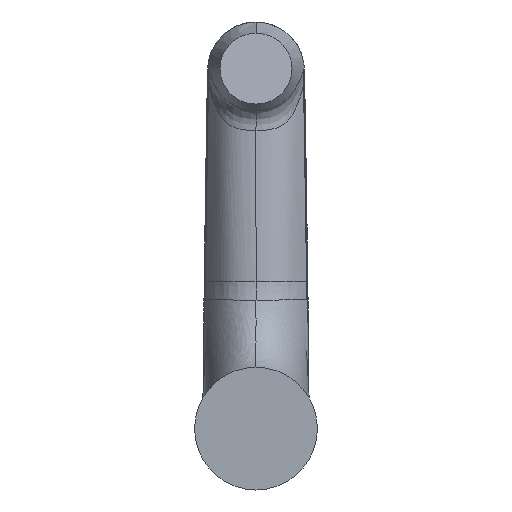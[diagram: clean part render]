
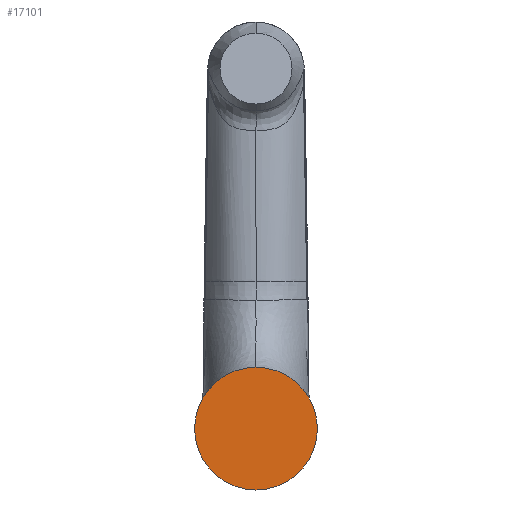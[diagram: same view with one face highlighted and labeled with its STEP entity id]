
A CAD part, front view. The second image highlights one B-rep face of the part: STEP entity #17101.
In plain terms, the highlighted planar face has unit normal (0, -1, 0).
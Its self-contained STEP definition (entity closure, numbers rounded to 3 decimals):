
#1326 = AXIS2_PLACEMENT_3D ( 'NONE', #1499, #5872, #13412 ) ;
#1499 = CARTESIAN_POINT ( 'NONE',  ( 0., 0., 0. ) ) ;
#1504 = CARTESIAN_POINT ( 'NONE',  ( 0., 0., 22.997 ) ) ;
#1628 = DIRECTION ( 'NONE',  ( -1., 0., 0. ) ) ;
#1957 = EDGE_CURVE ( 'NONE', #9422, #8171, #11071, .T. ) ;
#2657 = AXIS2_PLACEMENT_3D ( 'NONE', #15868, #12857, #18779 ) ;
#2709 = AXIS2_PLACEMENT_3D ( 'NONE', #7365, #13270, #13563 ) ;
#3086 = DIRECTION ( 'NONE',  ( 0., 1., 0. ) ) ;
#3439 = ORIENTED_EDGE ( 'NONE', *, *, #8927, .F. ) ;
#3657 = CARTESIAN_POINT ( 'NONE',  ( 0., 0., -22.997 ) ) ;
#5690 = PLANE ( 'NONE',  #2657 ) ;
#5872 = DIRECTION ( 'NONE',  ( 0., 1., 0. ) ) ;
#6295 = CIRCLE ( 'NONE', #13714, 22.997 ) ;
#6692 = EDGE_CURVE ( 'NONE', #8171, #10850, #14631, .T. ) ;
#6955 = FACE_OUTER_BOUND ( 'NONE', #13805, .T. ) ;
#7365 = CARTESIAN_POINT ( 'NONE',  ( 0., 0., 0. ) ) ;
#8125 = CARTESIAN_POINT ( 'NONE',  ( 22.997, 0., 0. ) ) ;
#8171 = VERTEX_POINT ( 'NONE', #1504 ) ;
#8927 = EDGE_CURVE ( 'NONE', #10850, #9422, #6295, .T. ) ;
#9422 = VERTEX_POINT ( 'NONE', #3657 ) ;
#10850 = VERTEX_POINT ( 'NONE', #8125 ) ;
#11071 = CIRCLE ( 'NONE', #2709, 22.997 ) ;
#12857 = DIRECTION ( 'NONE',  ( 0., 1., 0. ) ) ;
#13270 = DIRECTION ( 'NONE',  ( 0., 1., 0. ) ) ;
#13412 = DIRECTION ( 'NONE',  ( -1., 0., 0. ) ) ;
#13563 = DIRECTION ( 'NONE',  ( -1., 0., 0. ) ) ;
#13714 = AXIS2_PLACEMENT_3D ( 'NONE', #16556, #3086, #1628 ) ;
#13805 = EDGE_LOOP ( 'NONE', ( #17593, #3439, #16512 ) ) ;
#14631 = CIRCLE ( 'NONE', #1326, 22.997 ) ;
#15868 = CARTESIAN_POINT ( 'NONE',  ( 0., 0., 0. ) ) ;
#16512 = ORIENTED_EDGE ( 'NONE', *, *, #6692, .F. ) ;
#16556 = CARTESIAN_POINT ( 'NONE',  ( 0., 0., 0. ) ) ;
#17101 = ADVANCED_FACE ( 'NONE', ( #6955 ), #5690, .F. ) ;
#17593 = ORIENTED_EDGE ( 'NONE', *, *, #1957, .F. ) ;
#18779 = DIRECTION ( 'NONE',  ( -1., 0., 0. ) ) ;
